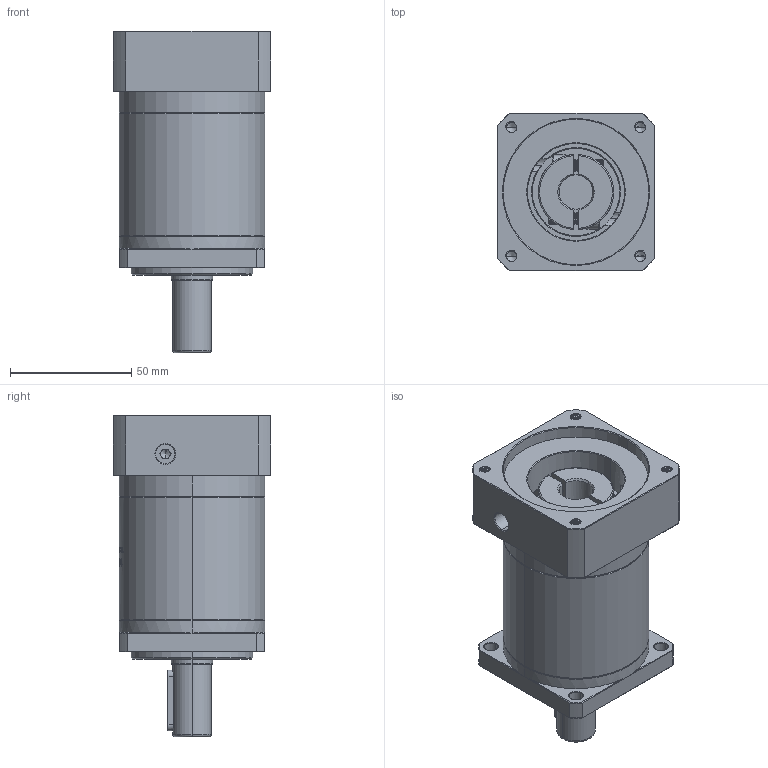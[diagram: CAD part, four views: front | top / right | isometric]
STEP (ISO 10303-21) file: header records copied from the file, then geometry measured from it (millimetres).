
FILE_DESCRIPTION (( 'STEP AP214' ), '1' );
FILE_NAME ('ZF60-D16-L2-14-60-75-M5.STEP', '2022-04-17T11:53:57', ( '' ), ( 'Microsoft' ), 'SwSTEP 2.0', 'SolidWorks 2016', '' );
FILE_SCHEMA (( 'AUTOMOTIVE_DESIGN' ));
Length unit declared in the file: millimetre
Products named in the file (1): ZF60-D16-L2-14-60-75-M5
Bounding box: 65 x 65 x 132.5 mm (x, y, z)
Volume: 284530.2 mm3; surface area: 50026.4 mm2
Topology: 6 solids, 6 shells, 1661 faces, 4484 edges, 2900 vertices
Faces by surface type: plane 749, cylinder 359, bspline 299, cone 236, torus 18
Entity records: 94511 total; most frequent: CARTESIAN_POINT 38315, ORIENTED_EDGE 8940, DIRECTION 6569, EDGE_CURVE 4470, VERTEX_POINT 2900, LINE 2283, VECTOR 2283, AXIS2_PLACEMENT_3D 2143
